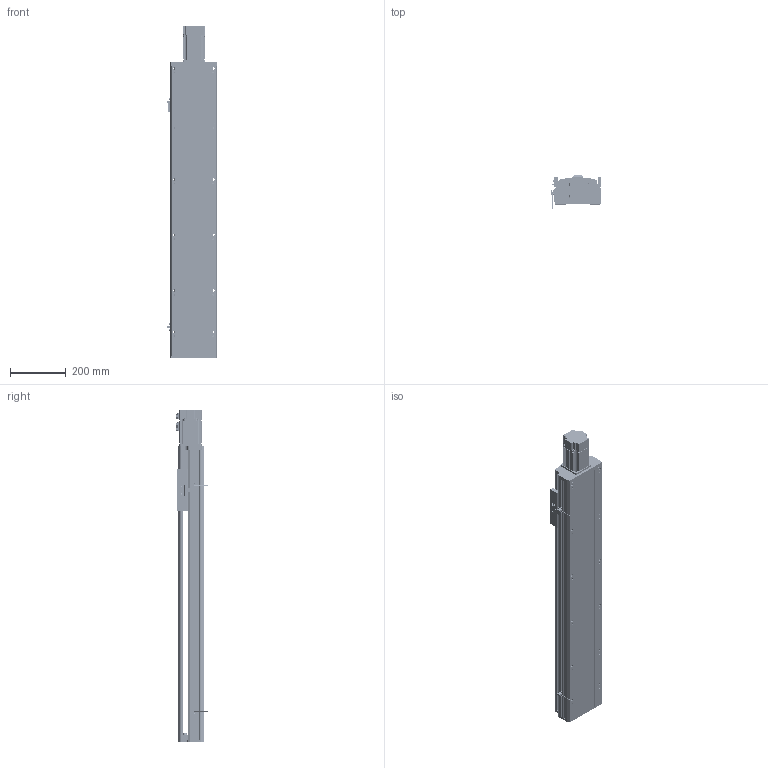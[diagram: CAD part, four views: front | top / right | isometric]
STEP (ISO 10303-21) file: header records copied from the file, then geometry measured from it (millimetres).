
FILE_DESCRIPTION (( 'STEP AP214' ), '1' );
FILE_NAME ('CTH170-800.STEP', '2019-11-25T08:59:56', ( '微软用户' ), ( '微软中国' ), 'SwSTEP 2.0', 'SolidWorks 2017', '' );
FILE_SCHEMA (( 'AUTOMOTIVE_DESIGN' ));
Length unit declared in the file: millimetre
Products named in the file (32): MISUMI_B7002-DB_盄俶絳砃粣; 170賑怢; BEARING_MISUMI_B7002-DB_盄俶絳砃粣; 170裔啣^CTH170-L10-200; 錨璃8^蚾饜极3_CTH170-L10-200; 錨璃2; 复件 轴承座^装配体3_CTH170-L10-200; 佪話盓傅釱^CTH170-L10-200; CTH170-800; M5-L16囀鞠褒蹟佪; 遣喳蝶15x12x8-BR L; 支撑座^丝杠支撑座_CTH170-L10-200; B6002Z; _C-BSST2005_n; SFS2005-411-SZC; SFH2010佪裝; M3-L8囀鞠褒蹟佪; 80EMA-016A; EE-SX672峚倰換覜ん; 170萇儂啣; CT17耀郪-覜茼んえ; 170傷啣; M6-L20囀鞠褒蹟佪; EGH20CA; 蚾饜极3^CTH170-L10-200; M5-L20囀鞠褒蹟佪-BR L; M4-L10囀鞠褒蹟佪-BR L; M5-L10囀鞠褒蹟佪; 坶踡蹟簽M15x1; EGH20CA_BLOCK; 潔路遠COL15-A; EG20_RAIL
Assembly tree (79 placements, depth 4):
  CTH170-800
    錨璃2
    170裔啣^CTH170-L10-200
    170賑怢
    EGH20CA  x2
      EG20_RAIL
      EGH20CA_BLOCK
      M5-L10囀鞠褒蹟佪
      M5-L20囀鞠褒蹟佪-BR L
    170傷啣
    170萇儂啣
    80EMA-016A
    SFS2005-411-SZC
      SFH2010佪裝
    _C-BSST2005_n
    佪話盓傅釱^CTH170-L10-200
      B6002Z
      支撑座^丝杠支撑座_CTH170-L10-200
      遣喳蝶15x12x8-BR L  x2
      M5-L16囀鞠褒蹟佪  x2
    蚾饜极3^CTH170-L10-200
      复件 轴承座^装配体3_CTH170-L10-200
      錨璃8^蚾饜极3_CTH170-L10-200
      MISUMI_B7002-DB_盄俶絳砃粣
        BEARING_MISUMI_B7002-DB_盄俶絳砃粣  x2
      潔路遠COL15-A  x2
      坶踡蹟簽M15x1
      M5-L16囀鞠褒蹟佪  x6
      M4-L10囀鞠褒蹟佪-BR L  x4
    遣喳蝶15x12x8-BR L  x2
    M6-L20囀鞠褒蹟佪  x4
    M4-L10囀鞠褒蹟佪-BR L  x10
    M5-L16囀鞠褒蹟佪  x4
    CT17耀郪-覜茼んえ
    EE-SX672峚倰換覜ん  x2
    M3-L8囀鞠褒蹟佪  x4
Bounding box: 183.7 x 117.95 x 1196 mm (x, y, z)
Volume: 6899619.9 mm3; surface area: 2121323.5 mm2
Topology: 91 solids, 92 shells, 5703 faces, 14989 edges, 9554 vertices
Faces by surface type: plane 3130, cylinder 1550, cone 641, bspline 342, torus 40
Entity records: 102642 total; most frequent: CARTESIAN_POINT 21795, ORIENTED_EDGE 14760, DIRECTION 14403, EDGE_CURVE 7380, AXIS2_PLACEMENT_3D 5036, VERTEX_POINT 4798, LINE 4331, VECTOR 4331
